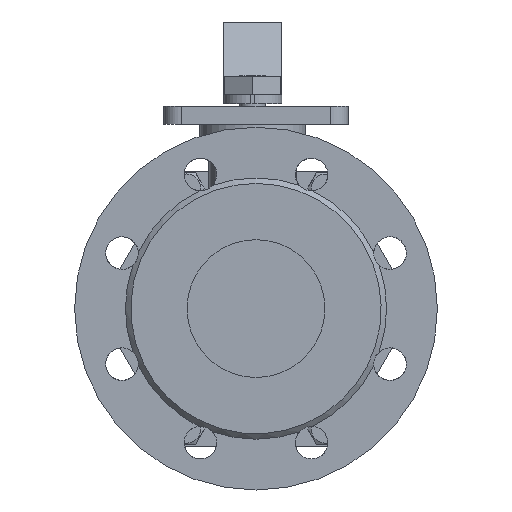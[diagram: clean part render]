
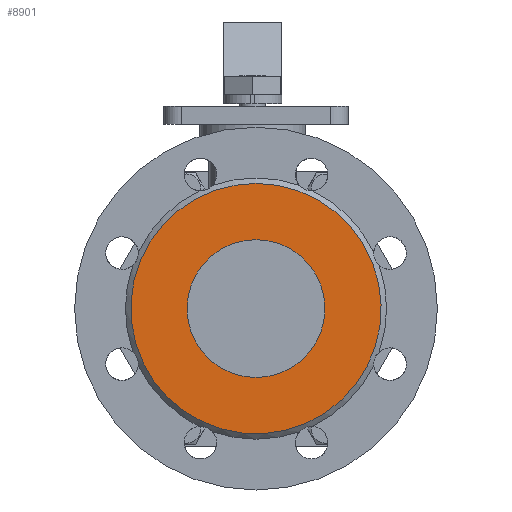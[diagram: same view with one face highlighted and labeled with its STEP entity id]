
A CAD part, left-side view. The second image highlights one B-rep face of the part: STEP entity #8901.
In plain terms, the highlighted planar face has unit normal (-1, 0, 0).
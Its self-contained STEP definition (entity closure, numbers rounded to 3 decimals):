
#8901=ADVANCED_FACE('',(#16569,#16571),#16573,.T.);
#16569=FACE_BOUND('',#16570,.T.);
#16570=EDGE_LOOP('',(#22765,#22766));
#16571=FACE_BOUND('',#16572,.T.);
#16572=EDGE_LOOP('',(#22767));
#16573=PLANE('',#16574);
#16574=AXIS2_PLACEMENT_3D('',#16575,#16576,#16577);
#16575=CARTESIAN_POINT('',(5188.121,153.164,40.));
#16576=DIRECTION('',(-1.,0.,0.));
#16577=DIRECTION('',(0.,-1.,0.));
#22765=ORIENTED_EDGE('',*,*,#25949,.F.);
#22766=ORIENTED_EDGE('',*,*,#25950,.F.);
#22767=ORIENTED_EDGE('',*,*,#25842,.T.);
#25842=EDGE_CURVE('',#30654,#30654,#30655,.T.);
#25949=EDGE_CURVE('',#30852,#30853,#30854,.T.);
#25950=EDGE_CURVE('',#30853,#30852,#30855,.T.);
#30654=VERTEX_POINT('',#42494);
#30655=CIRCLE('',#42495,38.);
#30852=VERTEX_POINT('',#44194);
#30853=VERTEX_POINT('',#44195);
#30854=CIRCLE('',#44196,69.);
#30855=CIRCLE('',#44200,69.);
#42494=CARTESIAN_POINT('',(5188.121,153.164,-67.));
#42495=AXIS2_PLACEMENT_3D('',#42496,#42497,#42498);
#42496=CARTESIAN_POINT('',(5188.121,153.164,-29.));
#42497=DIRECTION('',(1.,0.,0.));
#42498=DIRECTION('',(0.,0.,-1.));
#44194=CARTESIAN_POINT('',(5188.121,193.043,-85.309));
#44195=CARTESIAN_POINT('',(5188.121,153.164,40.));
#44196=AXIS2_PLACEMENT_3D('',#44197,#44198,#44199);
#44197=CARTESIAN_POINT('',(5188.121,153.164,-29.));
#44198=DIRECTION('',(1.,0.,0.));
#44199=DIRECTION('',(0.,0.578,-0.816));
#44200=AXIS2_PLACEMENT_3D('',#44201,#44202,#44203);
#44201=CARTESIAN_POINT('',(5188.121,153.164,-29.));
#44202=DIRECTION('',(1.,0.,0.));
#44203=DIRECTION('',(0.,0.,1.));
